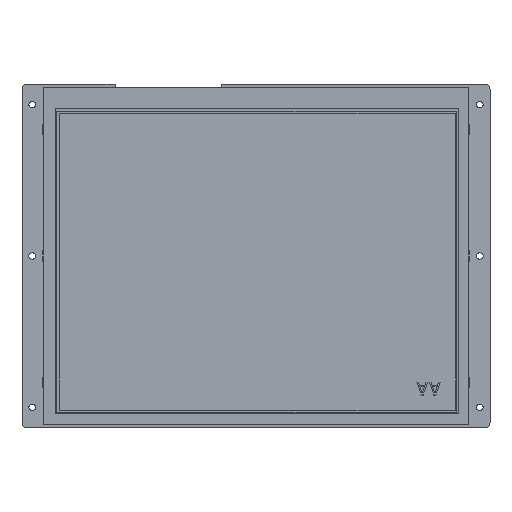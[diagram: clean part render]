
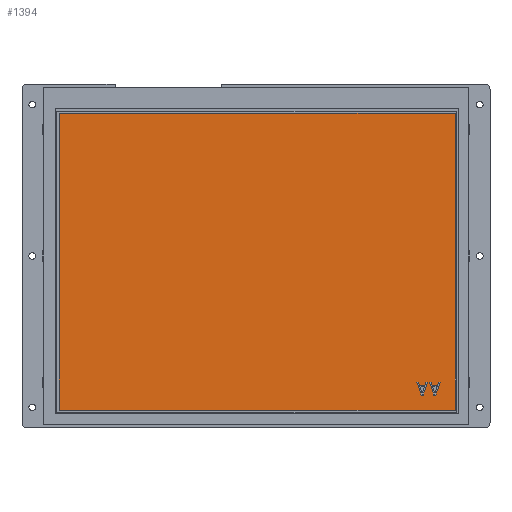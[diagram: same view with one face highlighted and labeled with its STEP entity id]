
A CAD part, front view. The second image highlights one B-rep face of the part: STEP entity #1394.
In plain terms, the highlighted planar face has unit normal (0, -1, 0) as drawn and (0, 1, 0) by its records, which use the part's own axes.
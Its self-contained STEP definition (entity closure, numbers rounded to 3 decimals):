
#699=DIRECTION('',(0.,0.,1.));
#700=VECTOR('',#699,147.456);
#701=CARTESIAN_POINT('',(-98.935,2.7,-76.525));
#702=LINE('',#701,#700);
#703=DIRECTION('',(-1.,0.,0.));
#704=VECTOR('',#703,196.608);
#705=CARTESIAN_POINT('',(97.673,2.7,-76.525));
#706=LINE('',#705,#704);
#707=DIRECTION('',(0.,0.,-1.));
#708=VECTOR('',#707,147.456);
#709=CARTESIAN_POINT('',(97.673,2.7,70.931));
#710=LINE('',#709,#708);
#711=DIRECTION('',(1.,0.,0.));
#712=VECTOR('',#711,196.608);
#713=CARTESIAN_POINT('',(-98.935,2.7,70.931));
#714=LINE('',#713,#712);
#715=DIRECTION('',(0.316,0.,0.949));
#716=VECTOR('',#715,6.62);
#717=CARTESIAN_POINT('',(-88.306,2.7,-69.076));
#718=LINE('',#717,#716);
#719=DIRECTION('',(1.,0.,0.));
#720=VECTOR('',#719,1.047);
#721=CARTESIAN_POINT('',(-89.353,2.7,-69.076));
#722=LINE('',#721,#720);
#723=DIRECTION('',(0.316,0.,-0.949));
#724=VECTOR('',#723,6.62);
#725=CARTESIAN_POINT('',(-91.446,2.7,-62.796));
#726=LINE('',#725,#724);
#727=DIRECTION('',(-1.,0.,0.));
#728=VECTOR('',#727,0.785);
#729=CARTESIAN_POINT('',(-90.661,2.7,-62.796));
#730=LINE('',#729,#728);
#731=DIRECTION('',(-0.31,0.,0.951));
#732=VECTOR('',#731,1.687);
#733=CARTESIAN_POINT('',(-90.138,2.7,-64.399));
#734=LINE('',#733,#732);
#735=DIRECTION('',(-1.,0.,0.));
#736=VECTOR('',#735,2.617);
#737=CARTESIAN_POINT('',(-87.521,2.7,-64.399));
#738=LINE('',#737,#736);
#739=DIRECTION('',(-0.31,0.,-0.951));
#740=VECTOR('',#739,1.687);
#741=CARTESIAN_POINT('',(-86.998,2.7,-62.796));
#742=LINE('',#741,#740);
#743=DIRECTION('',(-1.,0.,0.));
#744=VECTOR('',#743,0.785);
#745=CARTESIAN_POINT('',(-86.213,2.7,-62.796));
#746=LINE('',#745,#744);
#759=DIRECTION('',(0.316,0.,0.949));
#760=VECTOR('',#759,6.62);
#761=CARTESIAN_POINT('',(-82.026,2.7,-69.076));
#762=LINE('',#761,#760);
#763=DIRECTION('',(1.,0.,0.));
#764=VECTOR('',#763,1.047);
#765=CARTESIAN_POINT('',(-83.073,2.7,-69.076));
#766=LINE('',#765,#764);
#767=DIRECTION('',(0.316,0.,-0.949));
#768=VECTOR('',#767,6.62);
#769=CARTESIAN_POINT('',(-85.166,2.7,-62.796));
#770=LINE('',#769,#768);
#771=DIRECTION('',(-1.,0.,0.));
#772=VECTOR('',#771,0.785);
#773=CARTESIAN_POINT('',(-84.381,2.7,-62.796));
#774=LINE('',#773,#772);
#775=DIRECTION('',(-0.31,0.,0.951));
#776=VECTOR('',#775,1.687);
#777=CARTESIAN_POINT('',(-83.858,2.7,-64.399));
#778=LINE('',#777,#776);
#779=DIRECTION('',(-1.,0.,0.));
#780=VECTOR('',#779,2.617);
#781=CARTESIAN_POINT('',(-81.241,2.7,-64.399));
#782=LINE('',#781,#780);
#783=DIRECTION('',(-0.31,0.,-0.951));
#784=VECTOR('',#783,1.687);
#785=CARTESIAN_POINT('',(-80.718,2.7,-62.796));
#786=LINE('',#785,#784);
#787=DIRECTION('',(-1.,0.,0.));
#788=VECTOR('',#787,0.785);
#789=CARTESIAN_POINT('',(-79.933,2.7,-62.796));
#790=LINE('',#789,#788);
#923=CARTESIAN_POINT('',(-98.935,2.7,-76.525));
#924=CARTESIAN_POINT('',(-98.935,2.7,70.931));
#925=VERTEX_POINT('',#923);
#926=VERTEX_POINT('',#924);
#927=CARTESIAN_POINT('',(97.673,2.7,70.931));
#928=VERTEX_POINT('',#927);
#929=CARTESIAN_POINT('',(97.673,2.7,-76.525));
#930=VERTEX_POINT('',#929);
#931=CARTESIAN_POINT('',(-88.306,2.7,-69.076));
#932=CARTESIAN_POINT('',(-86.213,2.7,-62.796));
#933=VERTEX_POINT('',#931);
#934=VERTEX_POINT('',#932);
#935=CARTESIAN_POINT('',(-86.998,2.7,-62.796));
#936=VERTEX_POINT('',#935);
#937=CARTESIAN_POINT('',(-87.521,2.7,-64.399));
#938=VERTEX_POINT('',#937);
#939=CARTESIAN_POINT('',(-90.138,2.7,-64.399));
#940=VERTEX_POINT('',#939);
#941=CARTESIAN_POINT('',(-90.661,2.7,-62.796));
#942=VERTEX_POINT('',#941);
#943=CARTESIAN_POINT('',(-91.446,2.7,-62.796));
#944=VERTEX_POINT('',#943);
#945=CARTESIAN_POINT('',(-89.353,2.7,-69.076));
#946=VERTEX_POINT('',#945);
#953=CARTESIAN_POINT('',(-82.026,2.7,-69.076));
#954=CARTESIAN_POINT('',(-79.933,2.7,-62.796));
#955=VERTEX_POINT('',#953);
#956=VERTEX_POINT('',#954);
#957=CARTESIAN_POINT('',(-80.718,2.7,-62.796));
#958=VERTEX_POINT('',#957);
#959=CARTESIAN_POINT('',(-81.241,2.7,-64.399));
#960=VERTEX_POINT('',#959);
#961=CARTESIAN_POINT('',(-83.858,2.7,-64.399));
#962=VERTEX_POINT('',#961);
#963=CARTESIAN_POINT('',(-84.381,2.7,-62.796));
#964=VERTEX_POINT('',#963);
#965=CARTESIAN_POINT('',(-85.166,2.7,-62.796));
#966=VERTEX_POINT('',#965);
#967=CARTESIAN_POINT('',(-83.073,2.7,-69.076));
#968=VERTEX_POINT('',#967);
#1347=CARTESIAN_POINT('',(0.,2.7,0.));
#1348=DIRECTION('',(0.,1.,0.));
#1349=DIRECTION('',(1.,0.,0.));
#1350=AXIS2_PLACEMENT_3D('',#1347,#1348,#1349);
#1351=PLANE('',#1350);
#1352=ORIENTED_EDGE('',*,*,#1299,.F.);
#1353=ORIENTED_EDGE('',*,*,#1314,.F.);
#1354=ORIENTED_EDGE('',*,*,#1328,.F.);
#1355=ORIENTED_EDGE('',*,*,#1341,.F.);
#1356=EDGE_LOOP('',(#1352,#1353,#1354,#1355));
#1357=FACE_OUTER_BOUND('',#1356,.F.);
#1359=ORIENTED_EDGE('',*,*,#1358,.F.);
#1361=ORIENTED_EDGE('',*,*,#1360,.F.);
#1363=ORIENTED_EDGE('',*,*,#1362,.F.);
#1365=ORIENTED_EDGE('',*,*,#1364,.F.);
#1367=ORIENTED_EDGE('',*,*,#1366,.F.);
#1369=ORIENTED_EDGE('',*,*,#1368,.F.);
#1371=ORIENTED_EDGE('',*,*,#1370,.F.);
#1373=ORIENTED_EDGE('',*,*,#1372,.F.);
#1374=EDGE_LOOP('',(#1359,#1361,#1363,#1365,#1367,#1369,#1371,#1373));
#1375=FACE_BOUND('',#1374,.F.);
#1377=ORIENTED_EDGE('',*,*,#1376,.F.);
#1379=ORIENTED_EDGE('',*,*,#1378,.F.);
#1381=ORIENTED_EDGE('',*,*,#1380,.F.);
#1383=ORIENTED_EDGE('',*,*,#1382,.F.);
#1385=ORIENTED_EDGE('',*,*,#1384,.F.);
#1387=ORIENTED_EDGE('',*,*,#1386,.F.);
#1389=ORIENTED_EDGE('',*,*,#1388,.F.);
#1391=ORIENTED_EDGE('',*,*,#1390,.F.);
#1392=EDGE_LOOP('',(#1377,#1379,#1381,#1383,#1385,#1387,#1389,#1391));
#1393=FACE_BOUND('',#1392,.F.);
#1299=EDGE_CURVE('',#925,#926,#702,.T.);
#1314=EDGE_CURVE('',#930,#925,#706,.T.);
#1328=EDGE_CURVE('',#928,#930,#710,.T.);
#1341=EDGE_CURVE('',#926,#928,#714,.T.);
#1358=EDGE_CURVE('',#933,#934,#718,.T.);
#1360=EDGE_CURVE('',#946,#933,#722,.T.);
#1362=EDGE_CURVE('',#944,#946,#726,.T.);
#1364=EDGE_CURVE('',#942,#944,#730,.T.);
#1366=EDGE_CURVE('',#940,#942,#734,.T.);
#1368=EDGE_CURVE('',#938,#940,#738,.T.);
#1370=EDGE_CURVE('',#936,#938,#742,.T.);
#1372=EDGE_CURVE('',#934,#936,#746,.T.);
#1376=EDGE_CURVE('',#955,#956,#762,.T.);
#1378=EDGE_CURVE('',#968,#955,#766,.T.);
#1380=EDGE_CURVE('',#966,#968,#770,.T.);
#1382=EDGE_CURVE('',#964,#966,#774,.T.);
#1384=EDGE_CURVE('',#962,#964,#778,.T.);
#1386=EDGE_CURVE('',#960,#962,#782,.T.);
#1388=EDGE_CURVE('',#958,#960,#786,.T.);
#1390=EDGE_CURVE('',#956,#958,#790,.T.);
#1394=ADVANCED_FACE('',(#1357,#1375,#1393),#1351,.T.);
